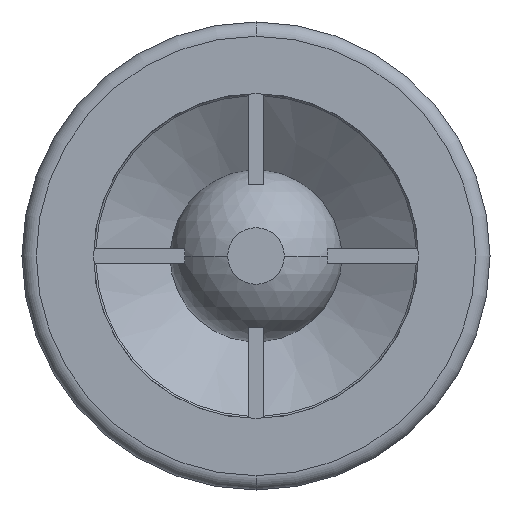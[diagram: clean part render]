
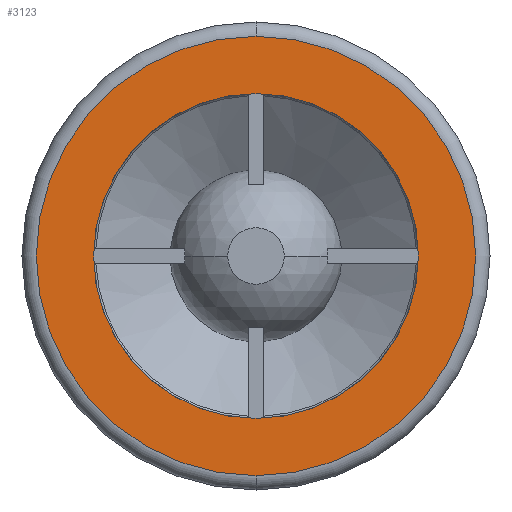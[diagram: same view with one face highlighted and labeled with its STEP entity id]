
A CAD part, front view. The second image highlights one B-rep face of the part: STEP entity #3123.
In plain terms, the highlighted planar face has unit normal (0, -1, 0).
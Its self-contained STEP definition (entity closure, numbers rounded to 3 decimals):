
#120 = VERTEX_POINT ( 'NONE', #600 ) ;
#122 = EDGE_CURVE ( 'NONE', #120, #123, #599, .T. ) ;
#123 = VERTEX_POINT ( 'NONE', #594 ) ;
#253 = EDGE_CURVE ( 'NONE', #123, #120, #850, .T. ) ;
#594 = CARTESIAN_POINT ( 'NONE',  ( 0., 0., -17. ) ) ;
#595 = DIRECTION ( 'NONE',  ( 0., 0., -1. ) ) ;
#596 = DIRECTION ( 'NONE',  ( 0., -1., 0. ) ) ;
#597 = CARTESIAN_POINT ( 'NONE',  ( 0., 0., 0. ) ) ;
#598 = AXIS2_PLACEMENT_3D ( 'NONE', #597, #596, #595 ) ;
#599 = CIRCLE ( 'NONE', #598, 17. ) ;
#600 = CARTESIAN_POINT ( 'NONE',  ( 0., 0., 17. ) ) ;
#847 = DIRECTION ( 'NONE',  ( 0., 0., -1. ) ) ;
#848 = DIRECTION ( 'NONE',  ( 0., -1., 0. ) ) ;
#849 = AXIS2_PLACEMENT_3D ( 'NONE', #856, #848, #847 ) ;
#850 = CIRCLE ( 'NONE', #849, 17. ) ;
#856 = CARTESIAN_POINT ( 'NONE',  ( 0., 0., 0. ) ) ;
#1909 = DIRECTION ( 'NONE',  ( 0., 0., 1. ) ) ;
#1910 = DIRECTION ( 'NONE',  ( 0., -1., 0. ) ) ;
#1911 = CARTESIAN_POINT ( 'NONE',  ( 0., 0., 0. ) ) ;
#1912 = AXIS2_PLACEMENT_3D ( 'NONE', #1911, #1910, #1909 ) ;
#1913 = CIRCLE ( 'NONE', #1912, 23. ) ;
#2019 = CARTESIAN_POINT ( 'NONE',  ( 0., 0., -23. ) ) ;
#2027 = CARTESIAN_POINT ( 'NONE',  ( 0., 0., 23. ) ) ;
#2051 = FACE_BOUND ( 'NONE', #3116, .T. ) ;
#2052 = FACE_OUTER_BOUND ( 'NONE', #3120, .T. ) ;
#2053 = DIRECTION ( 'NONE',  ( 0., 0., 1. ) ) ;
#2054 = DIRECTION ( 'NONE',  ( 0., -1., 0. ) ) ;
#2055 = CARTESIAN_POINT ( 'NONE',  ( 0., 0., 0. ) ) ;
#2056 = AXIS2_PLACEMENT_3D ( 'NONE', #2055, #2054, #2053 ) ;
#2060 = CIRCLE ( 'NONE', #2056, 23. ) ;
#2111 = DIRECTION ( 'NONE',  ( 0., 0., 1. ) ) ;
#2112 = DIRECTION ( 'NONE',  ( 0., 1., 0. ) ) ;
#2113 = CARTESIAN_POINT ( 'NONE',  ( -17., 0., 0. ) ) ;
#2114 = AXIS2_PLACEMENT_3D ( 'NONE', #2113, #2112, #2111 ) ;
#2115 = PLANE ( 'NONE',  #2114 ) ;
#3012 = EDGE_CURVE ( 'NONE', #3094, #3091, #1913, .T. ) ;
#3091 = VERTEX_POINT ( 'NONE', #2027 ) ;
#3094 = VERTEX_POINT ( 'NONE', #2019 ) ;
#3114 = EDGE_CURVE ( 'NONE', #3091, #3094, #2060, .T. ) ;
#3115 = ORIENTED_EDGE ( 'NONE', *, *, #3012, .T. ) ;
#3116 = EDGE_LOOP ( 'NONE', ( #3117, #3119 ) ) ;
#3117 = ORIENTED_EDGE ( 'NONE', *, *, #253, .F. ) ;
#3118 = ORIENTED_EDGE ( 'NONE', *, *, #3114, .T. ) ;
#3119 = ORIENTED_EDGE ( 'NONE', *, *, #122, .F. ) ;
#3120 = EDGE_LOOP ( 'NONE', ( #3118, #3115 ) ) ;
#3123 = ADVANCED_FACE ( 'NONE', ( #2052, #2051 ), #2115, .F. ) ;
